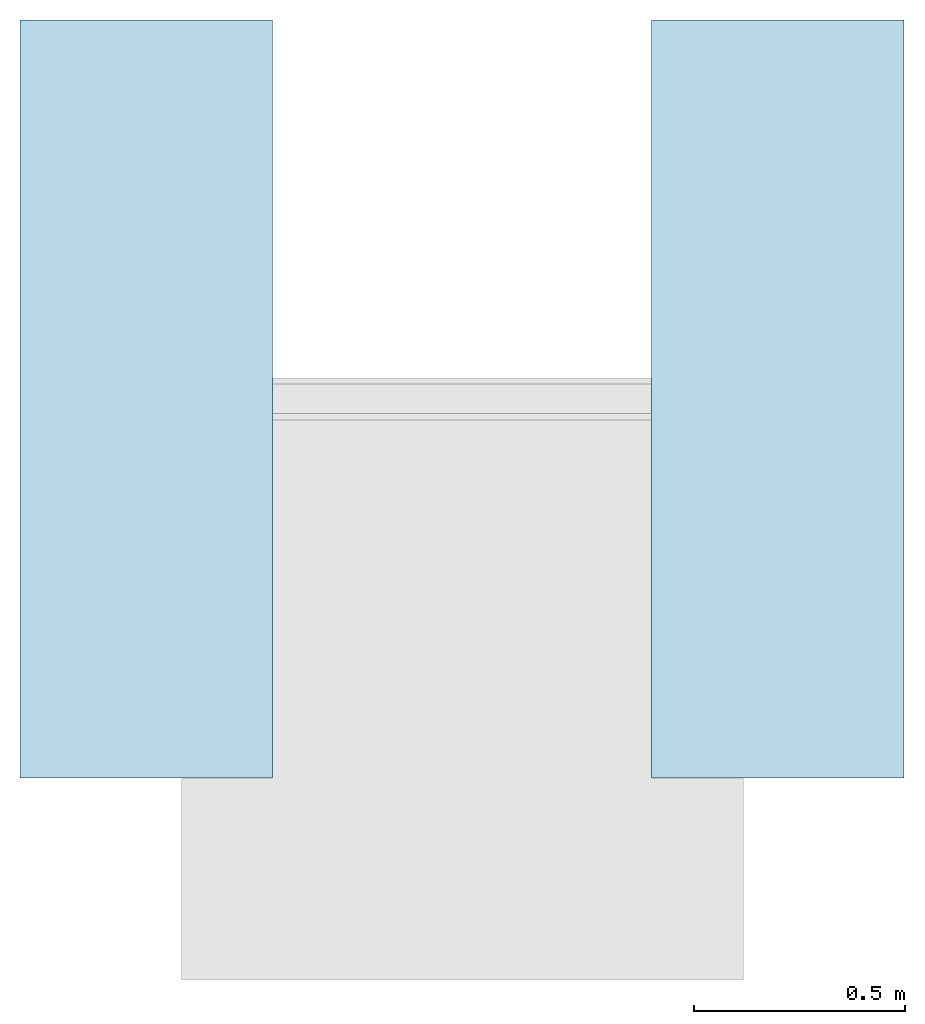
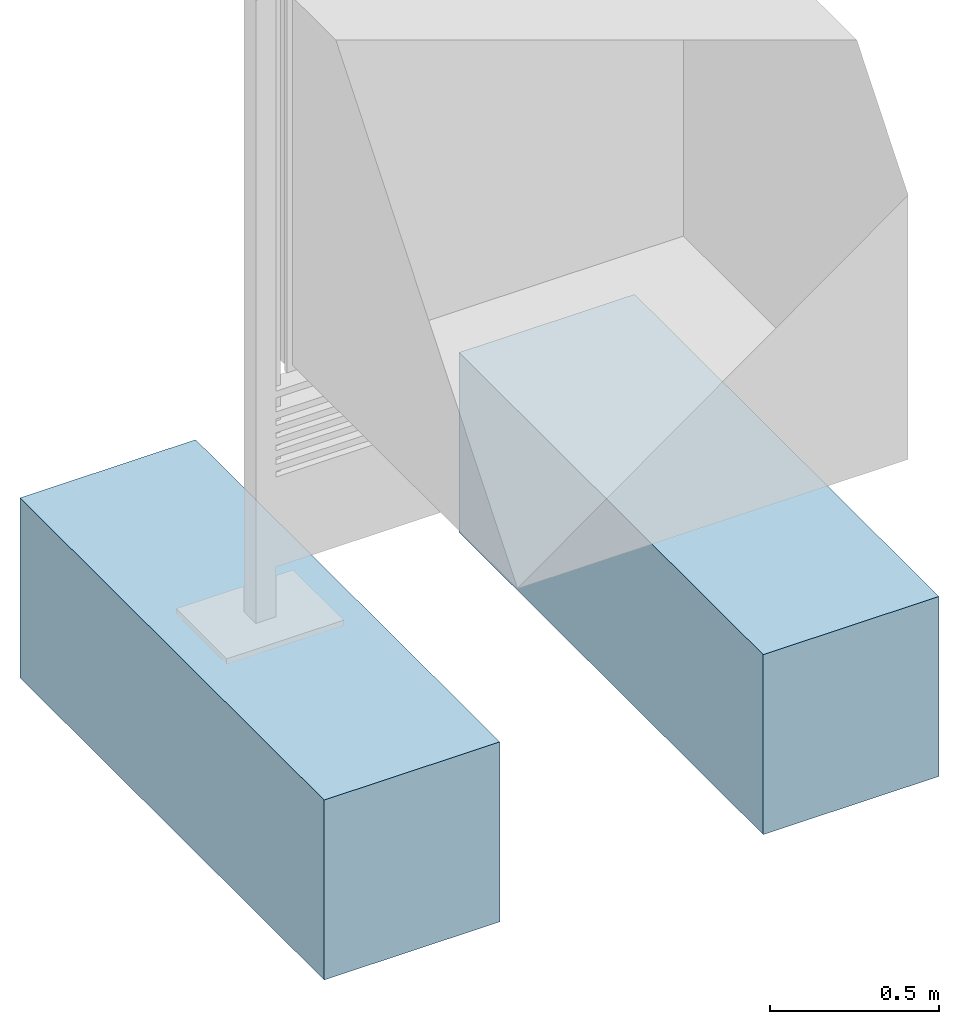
# One storey, incomplete: 2 slabs.
"""IFC4 building model written with IfcOpenShell, lengths in metres."""

from ifc_helpers import new_model, entity, si_unit, converted_unit, direction, frame, frame_2d, origin, origin_2d_with_axis, place, context, subcontext, project, spatial, rectangle, extrude, material, type_object, element, save


model = new_model("IFC4")

# Units and contexts
model_context = context("Model", 3, precision=1e-05, world=origin(), true_north=direction((6.123031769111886e-17, 1.0)))
body_context = subcontext(model_context, "Body", "Model", "MODEL_VIEW")
ifc_project = project(units=[si_unit("LENGTHUNIT", "METRE"), converted_unit("PLANEANGLEUNIT", "DEGREE", entity("IfcPlaneAngleMeasure", 0.017453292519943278), si_unit("PLANEANGLEUNIT", "RADIAN"), dimensions=[0, 0, 0, 0, 0, 0, 0]), si_unit("AREAUNIT", "SQUARE_METRE")], contexts=[model_context])

# Site, building, storey
site_placement = place(None, origin())
site = spatial("IfcSite", under=ifc_project, at=site_placement, Name="Default", CompositionType="ELEMENT")
building_placement = place(site_placement, origin())
building = spatial("IfcBuilding", under=site, at=building_placement, CompositionType="ELEMENT")
storey_placement = place(building_placement, origin())
storey = spatial("IfcBuildingStorey", under=building, at=storey_placement, Name="DB_Bezugshoehe_max_Bahnsteigkante", CompositionType="ELEMENT", Elevation=0.0)

# Slabs
ifc_material = material(Name="DB_Ortbeton", Category="DB_Beton")
slab_type = type_object("IfcSlabType", Name="DB_Vitrine_Fundament:DB_Vitrine_Fundament", PredefinedType="BASESLAB", material=ifc_material)
slab_1_placement = place(storey_placement, origin())
element("IfcSlab", 1, at=slab_1_placement, inside=storey, type_object=slab_type, Name="DB_Vitrine_Fundament:DB_Vitrine_Fundament", ObjectType="DB_Vitrine_Fundament:DB_Vitrine_Fundament", PredefinedType="BASESLAB", context=body_context, shape_type="SweptSolid", body=[
    extrude(rectangle(XDim=1.8, YDim=0.5999999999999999, at=origin_2d_with_axis()), frame((-0.0006257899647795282, 0.0, 0.04999999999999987), z_axis=(0.0, 0.0, 1.0), x_axis=(0.0, 1.0, 0.0)), (0.0, 0.0, 1.0), 0.5999999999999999),
    extrude(rectangle(XDim=0.5999999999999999, YDim=1.7999999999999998, at=origin_2d_with_axis()), frame((-0.0006257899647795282, 0.0, 0.0), z_axis=(0.0, 0.0, 1.0), x_axis=(-1.0, 0.0, 0.0)), (0.0, 0.0, 1.0), 0.04999999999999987),
])
slab_2_placement = place(storey_placement, origin())
element("IfcSlab", 2, at=slab_2_placement, inside=storey, type_object=slab_type, Name="DB_Vitrine_Fundament:DB_Vitrine_Fundament", ObjectType="DB_Vitrine_Fundament:DB_Vitrine_Fundament", PredefinedType="BASESLAB", context=body_context, shape_type="SweptSolid", body=[
    extrude(rectangle(XDim=1.8, YDim=0.5999999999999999, at=frame_2d((0.0, -8.326672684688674e-17), x_axis=(1.0, 0.0))), frame((1.4993742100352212, 0.0, 0.04999999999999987), z_axis=(0.0, 0.0, 1.0), x_axis=(0.0, 1.0, 0.0)), (0.0, 0.0, 1.0), 0.5999999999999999),
    extrude(rectangle(XDim=0.6000000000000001, YDim=1.7999999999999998, at=origin_2d_with_axis()), frame((1.4993742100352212, 0.0, 0.0), z_axis=(0.0, 0.0, 1.0), x_axis=(-1.0, 0.0, 0.0)), (0.0, 0.0, 1.0), 0.04999999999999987),
])

save(model, "model.ifc")
